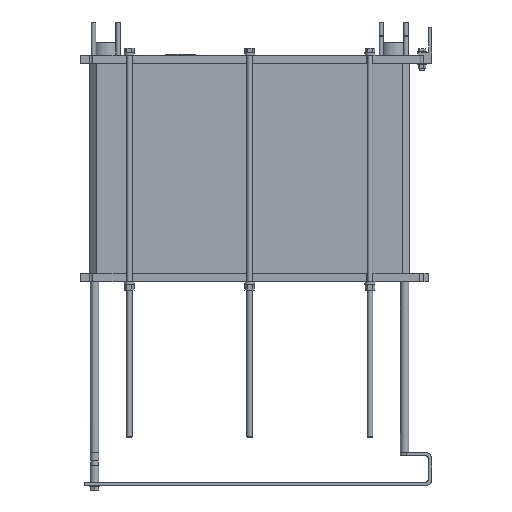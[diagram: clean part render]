
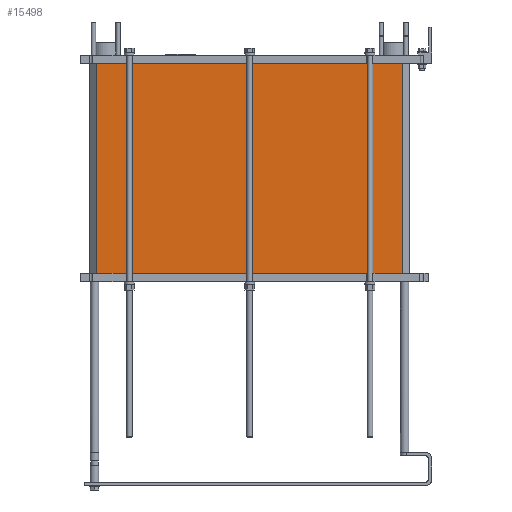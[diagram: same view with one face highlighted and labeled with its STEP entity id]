
A CAD part, left-side view. The second image highlights one B-rep face of the part: STEP entity #15498.
In plain terms, the highlighted planar face has unit normal (-1, 0, 0).
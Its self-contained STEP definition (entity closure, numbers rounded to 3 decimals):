
#1466=LINE('',#25351,#3061);
#1504=LINE('',#25451,#3099);
#1581=LINE('',#25620,#3176);
#1582=LINE('',#25622,#3177);
#3061=VECTOR('',#20768,1100.);
#3099=VECTOR('',#20836,1100.);
#3176=VECTOR('',#21073,756.);
#3177=VECTOR('',#21076,756.);
#3778=PLANE('',#16875);
#4825=FACE_OUTER_BOUND('',#5876,.T.);
#5876=EDGE_LOOP('',(#14021,#14022,#14023,#14024));
#7881=VERTEX_POINT('',#25348);
#7882=VERTEX_POINT('',#25350);
#7928=VERTEX_POINT('',#25448);
#7929=VERTEX_POINT('',#25450);
#9875=EDGE_CURVE('',#7881,#7882,#1466,.T.);
#9923=EDGE_CURVE('',#7929,#7928,#1504,.T.);
#10006=EDGE_CURVE('',#7881,#7929,#1581,.T.);
#10007=EDGE_CURVE('',#7882,#7928,#1582,.T.);
#14021=ORIENTED_EDGE('',*,*,#9923,.T.);
#14022=ORIENTED_EDGE('',*,*,#10007,.F.);
#14023=ORIENTED_EDGE('',*,*,#9875,.F.);
#14024=ORIENTED_EDGE('',*,*,#10006,.T.);
#15498=ADVANCED_FACE('',(#4825),#3778,.T.);
#16875=AXIS2_PLACEMENT_3D('',#25621,#21074,#21075);
#20768=DIRECTION('',(0.,-1.,0.));
#20836=DIRECTION('',(0.,-1.,0.));
#21073=DIRECTION('',(0.,0.,-1.));
#21074=DIRECTION('center_axis',(-1.,0.,0.));
#21075=DIRECTION('ref_axis',(0.,0.,1.));
#21076=DIRECTION('',(0.,0.,-1.));
#25348=CARTESIAN_POINT('',(-125.,550.,0.));
#25350=CARTESIAN_POINT('',(-125.,-550.,0.));
#25351=CARTESIAN_POINT('',(-125.,264.791,0.));
#25448=CARTESIAN_POINT('',(-125.,-550.,-756.));
#25450=CARTESIAN_POINT('',(-125.,550.,-756.));
#25451=CARTESIAN_POINT('',(-125.,575.,-756.));
#25620=CARTESIAN_POINT('',(-125.,550.,0.));
#25621=CARTESIAN_POINT('Origin',(-125.,550.,0.));
#25622=CARTESIAN_POINT('',(-125.,-550.,0.));
